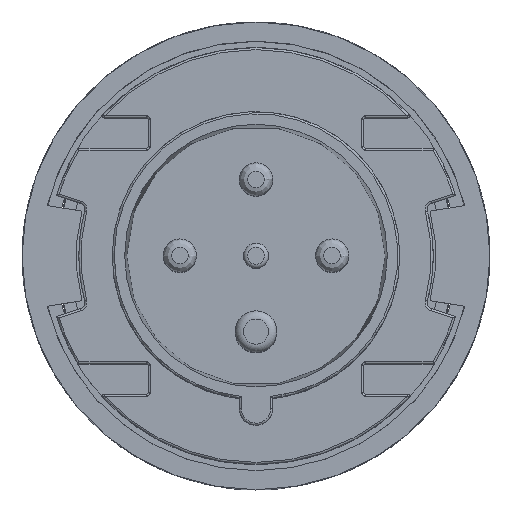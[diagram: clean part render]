
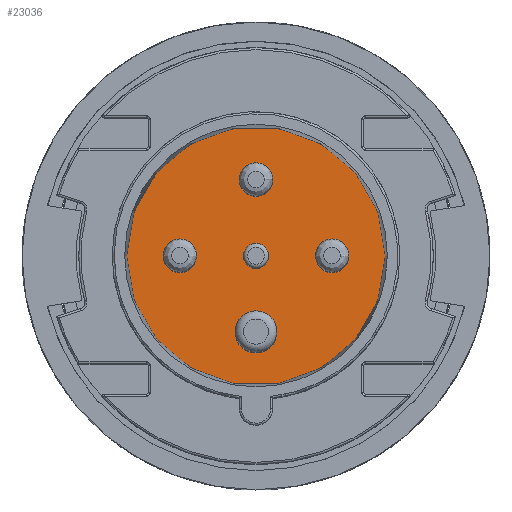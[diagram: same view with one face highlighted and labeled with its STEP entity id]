
A CAD part, top view. The second image highlights one B-rep face of the part: STEP entity #23036.
In plain terms, the highlighted planar face has unit normal (0, 0, 1).
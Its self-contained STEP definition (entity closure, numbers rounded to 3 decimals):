
#23036 = ADVANCED_FACE('',(#23037),#23075,.T.);
#23037 = FACE_BOUND('',#23038,.T.);
#23038 = EDGE_LOOP('',(#23039,#23050,#23059,#23068));
#23039 = ORIENTED_EDGE('',*,*,#23040,.F.);
#23040 = EDGE_CURVE('',#23041,#23043,#23045,.T.);
#23041 = VERTEX_POINT('',#23042);
#23042 = CARTESIAN_POINT('',(0.,31.,0.));
#23043 = VERTEX_POINT('',#23044);
#23044 = CARTESIAN_POINT('',(31.,0.,0.));
#23045 = CIRCLE('',#23046,31.);
#23046 = AXIS2_PLACEMENT_3D('',#23047,#23048,#23049);
#23047 = CARTESIAN_POINT('',(0.,0.,0.));
#23048 = DIRECTION('',(0.,0.,-1.));
#23049 = DIRECTION('',(0.,1.,0.));
#23050 = ORIENTED_EDGE('',*,*,#23051,.F.);
#23051 = EDGE_CURVE('',#23052,#23041,#23054,.T.);
#23052 = VERTEX_POINT('',#23053);
#23053 = CARTESIAN_POINT('',(-31.,0.,0.));
#23054 = CIRCLE('',#23055,31.);
#23055 = AXIS2_PLACEMENT_3D('',#23056,#23057,#23058);
#23056 = CARTESIAN_POINT('',(0.,0.,0.));
#23057 = DIRECTION('',(0.,0.,-1.));
#23058 = DIRECTION('',(-1.,0.,0.));
#23059 = ORIENTED_EDGE('',*,*,#23060,.F.);
#23060 = EDGE_CURVE('',#23061,#23052,#23063,.T.);
#23061 = VERTEX_POINT('',#23062);
#23062 = CARTESIAN_POINT('',(0.,-31.,0.));
#23063 = CIRCLE('',#23064,31.);
#23064 = AXIS2_PLACEMENT_3D('',#23065,#23066,#23067);
#23065 = CARTESIAN_POINT('',(0.,0.,0.));
#23066 = DIRECTION('',(0.,0.,-1.));
#23067 = DIRECTION('',(0.,-1.,0.));
#23068 = ORIENTED_EDGE('',*,*,#23069,.F.);
#23069 = EDGE_CURVE('',#23043,#23061,#23070,.T.);
#23070 = CIRCLE('',#23071,31.);
#23071 = AXIS2_PLACEMENT_3D('',#23072,#23073,#23074);
#23072 = CARTESIAN_POINT('',(0.,0.,0.));
#23073 = DIRECTION('',(0.,0.,-1.));
#23074 = DIRECTION('',(1.,0.,0.));
#23075 = PLANE('',#23076);
#23076 = AXIS2_PLACEMENT_3D('',#23077,#23078,#23079);
#23077 = CARTESIAN_POINT('',(0.,0.,0.));
#23078 = DIRECTION('',(0.,0.,1.));
#23079 = DIRECTION('',(-1.,0.,0.));
